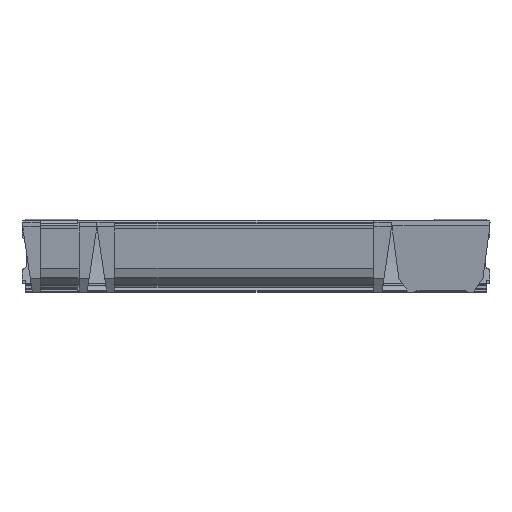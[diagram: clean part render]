
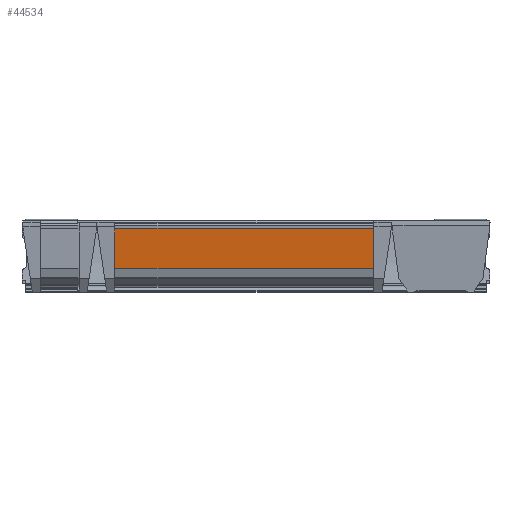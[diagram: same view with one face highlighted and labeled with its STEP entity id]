
A CAD part, left-side view. The second image highlights one B-rep face of the part: STEP entity #44534.
In plain terms, the highlighted planar face has unit normal (-0.991, 0, -0.131).
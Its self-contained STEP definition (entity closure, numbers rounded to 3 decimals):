
#1371 = EDGE_LOOP ( 'NONE', ( #58279, #58278, #58277, #58276 ) ) ;
#10500 = CARTESIAN_POINT ( 'NONE',  ( 8.199, 351., 21.942 ) ) ;
#10502 = PLANE ( 'NONE',  #51636 ) ;
#10519 = DIRECTION ( 'NONE',  ( 0.991, 0., 0.131 ) ) ;
#10521 = DIRECTION ( 'NONE',  ( 0.131, 0., -0.991 ) ) ;
#21466 = LINE ( 'NONE', #24184, #21467 ) ;
#21467 = VECTOR ( 'NONE', #24187, 1000. ) ;
#21468 = LINE ( 'NONE', #24191, #21469 ) ;
#21469 = VECTOR ( 'NONE', #24193, 1000. ) ;
#24184 = CARTESIAN_POINT ( 'NONE',  ( 8.199, 345.5, 21.942 ) ) ;
#24187 = DIRECTION ( 'NONE',  ( -0.131, 0., 0.991 ) ) ;
#24191 = CARTESIAN_POINT ( 'NONE',  ( 2.926, 351., 61.998 ) ) ;
#24193 = DIRECTION ( 'NONE',  ( 0., -1., 0. ) ) ;
#26532 = CARTESIAN_POINT ( 'NONE',  ( 8.199, 345.5, 21.942 ) ) ;
#26602 = CARTESIAN_POINT ( 'NONE',  ( 8.199, 107., 21.942 ) ) ;
#26629 = CARTESIAN_POINT ( 'NONE',  ( 2.926, 345.5, 61.998 ) ) ;
#26852 = CARTESIAN_POINT ( 'NONE',  ( 2.926, 107., 61.998 ) ) ;
#31134 = EDGE_CURVE ( 'NONE', #46249, #46034, #55441, .T. ) ;
#31135 = EDGE_CURVE ( 'NONE', #45983, #46034, #55474, .T. ) ;
#44534 = ADVANCED_FACE ( 'NONE', ( #47141 ), #10502, .F. ) ;
#45983 = VERTEX_POINT ( 'NONE', #26532 ) ;
#46034 = VERTEX_POINT ( 'NONE', #26602 ) ;
#46055 = VERTEX_POINT ( 'NONE', #26629 ) ;
#46249 = VERTEX_POINT ( 'NONE', #26852 ) ;
#46682 = DIRECTION ( 'NONE',  ( 0., -1., 0. ) ) ;
#46683 = CARTESIAN_POINT ( 'NONE',  ( 8.199, 351., 21.942 ) ) ;
#46696 = DIRECTION ( 'NONE',  ( 0.131, 0., -0.991 ) ) ;
#46699 = CARTESIAN_POINT ( 'NONE',  ( 8.199, 107., 21.942 ) ) ;
#47141 = FACE_OUTER_BOUND ( 'NONE', #1371, .T. ) ;
#48903 = EDGE_CURVE ( 'NONE', #45983, #46055, #21466, .T. ) ;
#48904 = EDGE_CURVE ( 'NONE', #46055, #46249, #21468, .T. ) ;
#51636 = AXIS2_PLACEMENT_3D ( 'NONE', #10500, #10519, #10521 ) ;
#55441 = LINE ( 'NONE', #46699, #55467 ) ;
#55467 = VECTOR ( 'NONE', #46696, 1000. ) ;
#55474 = LINE ( 'NONE', #46683, #55475 ) ;
#55475 = VECTOR ( 'NONE', #46682, 1000. ) ;
#58276 = ORIENTED_EDGE ( 'NONE', *, *, #48904, .F. ) ;
#58277 = ORIENTED_EDGE ( 'NONE', *, *, #31134, .F. ) ;
#58278 = ORIENTED_EDGE ( 'NONE', *, *, #31135, .T. ) ;
#58279 = ORIENTED_EDGE ( 'NONE', *, *, #48903, .F. ) ;
